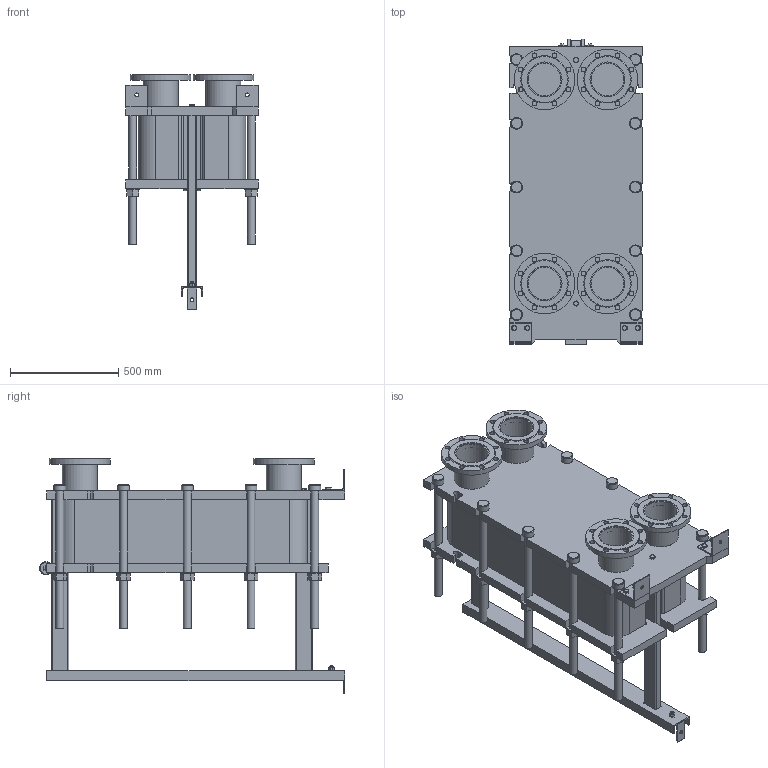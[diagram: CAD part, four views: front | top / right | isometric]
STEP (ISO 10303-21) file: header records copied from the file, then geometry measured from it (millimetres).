
FILE_DESCRIPTION(/* description */ (''),/* implementation_level */ '2;1');
FILE_NAME(/* name */ 'C:\Users\zhuro\Desktop\ENCO\TO\ЭН-041\ЭН-0,5-041-86-1.stp',/* time_stamp */ '2022-06-06T10:56:48+03:00',/* author */ ('zhuro'),/* organization */ (''),/* preprocessor_version */ 'ST-DEVELOPER v18.1',/* originating_system */ 'Autodesk Inventor 2022',/* authorisation */ '');
FILE_SCHEMA (('AUTOMOTIVE_DESIGN { 1 0 10303 214 3 1 1 }'));
Length unit declared in the file: millimetre
Products named in the file (1): ЭН-0,5-041-86-1
Bounding box: 610 x 1406.5 x 1085 mm (x, y, z)
Volume: 246364476.7 mm3; surface area: 8715822.6 mm2
Topology: 52 solids, 52 shells, 711 faces, 1696 edges, 1094 vertices
Faces by surface type: plane 487, cylinder 177, cone 41, torus 6
Full cylindrical faces by diameter (mm): 8 x4, 10 x2, 16 x8, 18 x3, 22 x32, 36 x24, 50 x1, 54 x10, 60 x12, 151 x4, 161 x8, 280 x4
Entity records: 22667 total; most frequent: CARTESIAN_POINT 5230, DIRECTION 3644, ORIENTED_EDGE 3392, EDGE_CURVE 1696, AXIS2_PLACEMENT_3D 1272, LINE 1100, VECTOR 1100, VERTEX_POINT 1094
